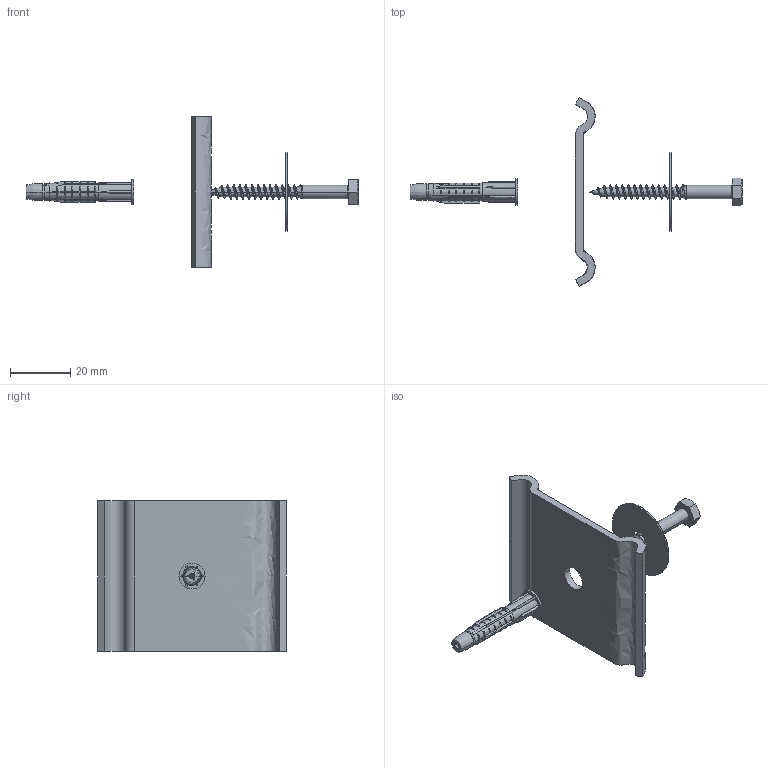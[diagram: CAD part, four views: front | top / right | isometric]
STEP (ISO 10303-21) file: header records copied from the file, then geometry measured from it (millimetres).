
FILE_DESCRIPTION(/* description */ (''),/* implementation_level */ '2;1');
FILE_NAME(/* name */ 'DZM07',/* time_stamp */ '2012-11-29T22:45:51+01:00',/* author */ (''),/* organization */ (''),/* preprocessor_version */ 'ST-DEVELOPER v10',/* originating_system */ '',/* authorisation */ '');
FILE_SCHEMA (('AUTOMOTIVE_DESIGN_CC2'));
Length unit declared in the file: millimetre
Products named in the file (1): 1
Bounding box: 109.94 x 62.45 x 50 mm (x, y, z)
Surface area: 10898.9 mm2 (no closed solid volume)
Topology: 0 solids, 151 shells, 166 faces, 726 edges, 611 vertices
Faces by surface type: bspline 144, plane 22
Entity records: 27225 total; most frequent: CARTESIAN_POINT 22908, ORIENTED_EDGE 669, EDGE_CURVE 639, VERTEX_POINT 610, B_SPLINE_CURVE_WITH_KNOTS 266, EDGE_LOOP 171, ADVANCED_FACE 166, FACE_OUTER_BOUND 166
